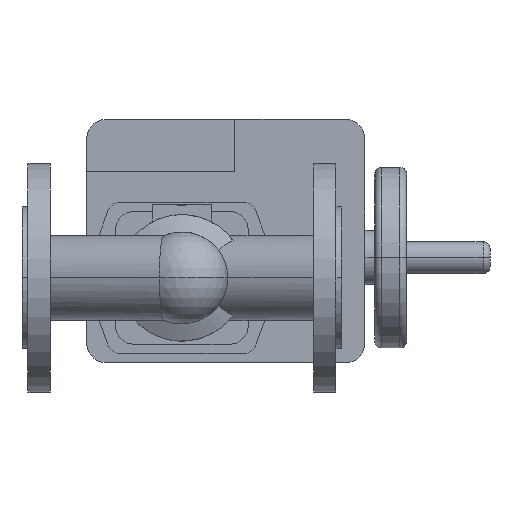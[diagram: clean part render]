
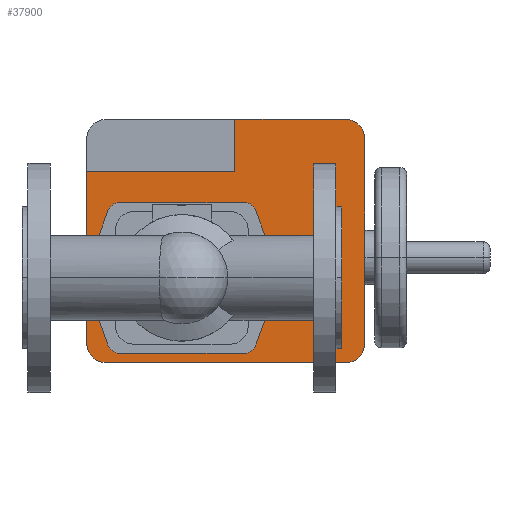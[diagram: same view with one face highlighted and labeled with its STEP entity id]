
A CAD part, front view. The second image highlights one B-rep face of the part: STEP entity #37900.
In plain terms, the highlighted planar face has unit normal (0, -1, 0).
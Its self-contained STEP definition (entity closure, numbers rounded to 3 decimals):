
#35720=CARTESIAN_POINT('',(159.784,393.,54.2));
#35730=VERTEX_POINT('',#35720);
#35760=CARTESIAN_POINT('',(159.784,393.,45.2));
#35770=DIRECTION('',(0.,1.,0.));
#35780=DIRECTION('',(0.,0.,1.));
#35790=AXIS2_PLACEMENT_3D('',#35760,#35770,#35780);
#35800=CIRCLE('',#35790,9.);
#35810=CARTESIAN_POINT('',(167.942,393.,49.002));
#35820=VERTEX_POINT('',#35810);
#35830=EDGE_CURVE('',#35730,#35820,#35800,.T.);
#36010=CARTESIAN_POINT('',(62.8,393.,0.));
#36020=DIRECTION('',(0.,1.,0.));
#36030=DIRECTION('',(0.906,0.,0.422));
#36040=AXIS2_PLACEMENT_3D('',#36010,#36020,#36030);
#36050=CIRCLE('',#36040,116.);
#36060=CARTESIAN_POINT('',(167.942,393.,-49.002));
#36070=VERTEX_POINT('',#36060);
#36080=EDGE_CURVE('',#35820,#36070,#36050,.T.);
#36260=CARTESIAN_POINT('',(159.784,393.,-45.2));
#36270=DIRECTION('',(0.,1.,0.));
#36280=DIRECTION('',(0.906,0.,-0.422));
#36290=AXIS2_PLACEMENT_3D('',#36260,#36270,#36280);
#36300=CIRCLE('',#36290,9.);
#36310=CARTESIAN_POINT('',(159.784,393.,-54.2));
#36320=VERTEX_POINT('',#36310);
#36330=EDGE_CURVE('',#36070,#36320,#36300,.T.);
#36510=CARTESIAN_POINT('',(137.392,393.,-54.2));
#36520=DIRECTION('',(-1.,0.,0.));
#36530=VECTOR('',#36520,1.);
#36540=LINE('',#36510,#36530);
#36550=CARTESIAN_POINT('',(70.216,393.,-54.2));
#36560=VERTEX_POINT('',#36550);
#36570=EDGE_CURVE('',#36320,#36560,#36540,.T.);
#36690=CARTESIAN_POINT('',(115.,393.,0.));
#36700=DIRECTION('',(0.,1.,0.));
#36710=DIRECTION('',(0.,0.,1.));
#36720=AXIS2_PLACEMENT_3D('',#36690,#36700,#36710);
#36730=PLANE('',#36720);
#36740=CARTESIAN_POINT('',(167.2,393.,0.));
#36750=DIRECTION('',(0.,1.,0.));
#36760=DIRECTION('',(-0.906,0.,-0.422));
#36770=AXIS2_PLACEMENT_3D('',#36740,#36750,#36760);
#36780=CIRCLE('',#36770,116.);
#36790=CARTESIAN_POINT('',(62.058,393.,-49.002));
#36800=VERTEX_POINT('',#36790);
#36810=CARTESIAN_POINT('',(62.058,393.,49.002));
#36820=VERTEX_POINT('',#36810);
#36830=EDGE_CURVE('',#36800,#36820,#36780,.T.);
#36840=ORIENTED_EDGE('',*,*,#36830,.T.);
#36850=CARTESIAN_POINT('',(70.216,393.,-45.2));
#36860=DIRECTION('',(0.,1.,0.));
#36870=DIRECTION('',(0.,0.,-1.));
#36880=AXIS2_PLACEMENT_3D('',#36850,#36860,#36870);
#36890=CIRCLE('',#36880,9.);
#36900=EDGE_CURVE('',#36560,#36800,#36890,.T.);
#36910=ORIENTED_EDGE('',*,*,#36900,.T.);
#36920=ORIENTED_EDGE('',*,*,#36570,.T.);
#36930=ORIENTED_EDGE('',*,*,#36330,.T.);
#36940=ORIENTED_EDGE('',*,*,#36080,.T.);
#36950=ORIENTED_EDGE('',*,*,#35830,.T.);
#36960=CARTESIAN_POINT('',(92.608,393.,54.2));
#36970=DIRECTION('',(1.,0.,0.));
#36980=VECTOR('',#36970,1.);
#36990=LINE('',#36960,#36980);
#37000=CARTESIAN_POINT('',(70.216,393.,54.2));
#37010=VERTEX_POINT('',#37000);
#37020=EDGE_CURVE('',#37010,#35730,#36990,.T.);
#37030=ORIENTED_EDGE('',*,*,#37020,.T.);
#37040=CARTESIAN_POINT('',(70.216,393.,45.2));
#37050=DIRECTION('',(0.,1.,0.));
#37060=DIRECTION('',(-0.906,0.,0.422));
#37070=AXIS2_PLACEMENT_3D('',#37040,#37050,#37060);
#37080=CIRCLE('',#37070,9.);
#37090=EDGE_CURVE('',#36820,#37010,#37080,.T.);
#37100=ORIENTED_EDGE('',*,*,#37090,.T.);
#37110=EDGE_LOOP('',(#37100,#37030,#36950,#36940,#36930,#36920,#36910,
#36840));
#37120=FACE_BOUND('',#37110,.T.);
#37130=CARTESIAN_POINT('',(153.1,393.,38.25));
#37140=DIRECTION('',(0.,0.,-1.));
#37150=VECTOR('',#37140,1.);
#37160=LINE('',#37130,#37150);
#37170=CARTESIAN_POINT('',(153.1,393.,114.));
#37180=VERTEX_POINT('',#37170);
#37190=CARTESIAN_POINT('',(153.1,393.,76.5));
#37200=VERTEX_POINT('',#37190);
#37210=EDGE_CURVE('',#37180,#37200,#37160,.T.);
#37220=ORIENTED_EDGE('',*,*,#37210,.T.);
#37230=CARTESIAN_POINT('',(60.6,393.,114.));
#37240=DIRECTION('',(1.,0.,0.));
#37250=VECTOR('',#37240,1.);
#37260=LINE('',#37230,#37250);
#37270=CARTESIAN_POINT('',(232.6,393.,114.));
#37280=VERTEX_POINT('',#37270);
#37290=EDGE_CURVE('',#37180,#37280,#37260,.T.);
#37300=ORIENTED_EDGE('',*,*,#37290,.F.);
#37310=CARTESIAN_POINT('',(232.6,393.,100.));
#37320=DIRECTION('',(0.,1.,0.));
#37330=DIRECTION('',(0.,0.,1.));
#37340=AXIS2_PLACEMENT_3D('',#37310,#37320,#37330);
#37350=CIRCLE('',#37340,14.);
#37360=CARTESIAN_POINT('',(246.6,393.,100.));
#37370=VERTEX_POINT('',#37360);
#37380=EDGE_CURVE('',#37280,#37370,#37350,.T.);
#37390=ORIENTED_EDGE('',*,*,#37380,.F.);
#37400=CARTESIAN_POINT('',(246.6,393.,100.));
#37410=DIRECTION('',(0.,0.,-1.));
#37420=VECTOR('',#37410,1.);
#37430=LINE('',#37400,#37420);
#37440=CARTESIAN_POINT('',(246.6,393.,-47.));
#37450=VERTEX_POINT('',#37440);
#37460=EDGE_CURVE('',#37370,#37450,#37430,.T.);
#37470=ORIENTED_EDGE('',*,*,#37460,.F.);
#37480=CARTESIAN_POINT('',(232.6,393.,-47.));
#37490=DIRECTION('',(0.,1.,0.));
#37500=DIRECTION('',(1.,0.,0.));
#37510=AXIS2_PLACEMENT_3D('',#37480,#37490,#37500);
#37520=CIRCLE('',#37510,14.);
#37530=CARTESIAN_POINT('',(232.6,393.,-61.));
#37540=VERTEX_POINT('',#37530);
#37550=EDGE_CURVE('',#37450,#37540,#37520,.T.);
#37560=ORIENTED_EDGE('',*,*,#37550,.F.);
#37570=CARTESIAN_POINT('',(232.6,393.,-61.));
#37580=DIRECTION('',(-1.,0.,0.));
#37590=VECTOR('',#37580,1.);
#37600=LINE('',#37570,#37590);
#37610=CARTESIAN_POINT('',(60.6,393.,-61.));
#37620=VERTEX_POINT('',#37610);
#37630=EDGE_CURVE('',#37540,#37620,#37600,.T.);
#37640=ORIENTED_EDGE('',*,*,#37630,.F.);
#37650=CARTESIAN_POINT('',(60.6,393.,-47.));
#37660=DIRECTION('',(0.,1.,0.));
#37670=DIRECTION('',(0.,0.,-1.));
#37680=AXIS2_PLACEMENT_3D('',#37650,#37660,#37670);
#37690=CIRCLE('',#37680,14.);
#37700=CARTESIAN_POINT('',(46.6,393.,-47.));
#37710=VERTEX_POINT('',#37700);
#37720=EDGE_CURVE('',#37620,#37710,#37690,.T.);
#37730=ORIENTED_EDGE('',*,*,#37720,.F.);
#37740=CARTESIAN_POINT('',(46.6,393.,-47.));
#37750=DIRECTION('',(0.,0.,1.));
#37760=VECTOR('',#37750,1.);
#37770=LINE('',#37740,#37760);
#37780=CARTESIAN_POINT('',(46.6,393.,76.5));
#37790=VERTEX_POINT('',#37780);
#37800=EDGE_CURVE('',#37710,#37790,#37770,.T.);
#37810=ORIENTED_EDGE('',*,*,#37800,.F.);
#37820=CARTESIAN_POINT('',(80.3,393.,76.5));
#37830=DIRECTION('',(-1.,0.,0.));
#37840=VECTOR('',#37830,1.);
#37850=LINE('',#37820,#37840);
#37860=EDGE_CURVE('',#37200,#37790,#37850,.T.);
#37870=ORIENTED_EDGE('',*,*,#37860,.T.);
#37880=EDGE_LOOP('',(#37870,#37810,#37730,#37640,#37560,#37470,#37390,
#37300,#37220));
#37890=FACE_OUTER_BOUND('',#37880,.T.);
#37900=ADVANCED_FACE('',(#37120,#37890),#36730,.F.);
